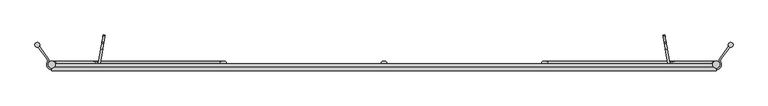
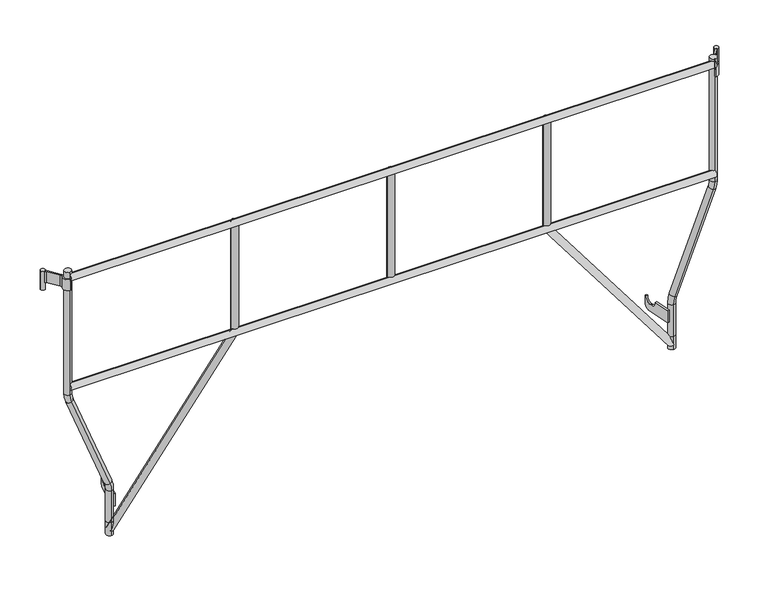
"""IFC4 building model written with IfcOpenShell, lengths in millimetres: proxy geometry, MILLS_TOEC_GARDE_CORPS_MDS : GCMDS300EE."""

from ifc_helpers import new_model, si_unit, point, frame, frame_2d, origin, origin_2d, place, context, project, spatial, polyline, circle_curve, ellipse_curve, trimmed, segment, composite_curve, outline, extrude, source, transform, mapped, element, save
from ifc_brep_helpers import plane_surface, cylinder_surface, revolved_surface, advanced_brep


def specialty_equipment_8377ca54(model_context):
    return source(origin(), model_context, "Body", "SolidModel", [
        extrude(outline(composite_curve([segment(polyline([(1.0, 0.0), (1.0, -56.0), (-71.0236376, -56.0)]), True, "CONTINUOUS"), segment(trimmed(circle_curve(frame_2d((-96.0036296, -55.0)), 25.0), [point((-71.0236376, -56.0))], [point((-96.0036296, -30.0))], True, "CARTESIAN"), True, "CONTINUOUS"), segment(polyline([(-96.0036296, -30.0), (-101.0, -30.0)]), True, "CONTINUOUS"), segment(trimmed(circle_curve(frame_2d((-101.0, -55.0)), 25.0), [point((-101.0, -30.0))], [point((-125.979992, -56.0))], True, "CARTESIAN"), True, "CONTINUOUS"), segment(polyline([(-125.979992, -56.0), (-131.0, -56.0), (-131.0, -25.0)]), True, "CONTINUOUS"), segment(trimmed(circle_curve(frame_2d((-106.0, -25.0)), 25.0), [point((-131.0, -25.0))], [point((-106.0, 0.0))], False, "CARTESIAN"), True, "CONTINUOUS"), segment(polyline([(-106.0, 0.0), (1.0, 0.0)]), True, "CONTINUOUS")], self_intersect=False)), frame((-512.2782405, -100.0151851, -1045.0342697), z_axis=(0.9848149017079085, 0.1736076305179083, 0.0), x_axis=(0.1736076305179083, -0.9848149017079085, 0.0)), (0.0, 0.0, 1.0), 8.0),
        extrude(outline(composite_curve([segment(polyline([(55.0, 0.0), (55.0, -107.0)]), True, "CONTINUOUS"), segment(trimmed(circle_curve(frame_2d((30.0, -107.0)), 25.0), [point((55.0, -107.0))], [point((30.0, -132.0))], False, "CARTESIAN"), True, "CONTINUOUS"), segment(polyline([(30.0, -132.0), (-1.0, -132.0), (-1.0, -126.979992)]), True, "CONTINUOUS"), segment(trimmed(circle_curve(frame_2d((0.0, -102.0)), 25.0), [point((-1.0, -126.979992))], [point((25.0, -102.0))], True, "CARTESIAN"), True, "CONTINUOUS"), segment(polyline([(25.0, -102.0), (25.0, -97.0036297)]), True, "CONTINUOUS"), segment(trimmed(circle_curve(frame_2d((0.0, -97.0036297)), 25.0), [point((25.0, -97.0036297))], [point((-1.0, -72.0236376))], True, "CARTESIAN"), True, "CONTINUOUS"), segment(polyline([(-1.0, -72.0236376), (-1.0, 0.0), (55.0, 0.0)]), True, "CONTINUOUS")], self_intersect=False)), frame((-2897.9370473, -101.0, -990.0342697), z_axis=(-0.9848149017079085, 0.17360763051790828, 0.0), x_axis=(0.0, 0.0, -1.0)), (0.0, 0.0, 1.0), 8.0),
        extrude(outline(composite_curve([segment(trimmed(circle_curve(frame_2d((-1031.0208401, -94.0)), 15.0), [point((-1016.0208401, -94.0))], [point((-1046.0208401, -94.0))], False, "CARTESIAN"), True, "CONTINUOUS"), segment(trimmed(circle_curve(frame_2d((-1031.0208401, -94.0)), 15.0), [point((-1046.0208401, -94.0))], [point((-1016.0208401, -94.0))], False, "CARTESIAN"), True, "CONTINUOUS")], self_intersect=False)), frame((0.0, 0.0, -428.0342697), z_axis=(0.0, 0.0, 1.0), x_axis=(1.0, 0.0, 0.0)), (0.0, 0.0, 1.0), 500.0),
        extrude(outline(composite_curve([segment(trimmed(circle_curve(origin_2d(), 15.0), [point((0.0, 15.0))], [point((0.0, -15.0))], False, "CARTESIAN"), True, "CONTINUOUS"), segment(trimmed(circle_curve(origin_2d(), 15.0), [point((0.0, -15.0))], [point((0.0, 15.0))], False, "CARTESIAN"), True, "CONTINUOUS")], self_intersect=False)), frame((-490.8598532, -94.0, -1148.6632029), z_axis=(-0.60180110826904, 0.0, 0.7986459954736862), x_axis=(0.0, -1.0, 0.0)), (0.0, 0.0, 1.0), 902.3133369),
        extrude(outline(composite_curve([segment(trimmed(circle_curve(origin_2d(), 15.0), [point((0.0, 15.0))], [point((0.0, -15.0))], False, "CARTESIAN"), True, "CONTINUOUS"), segment(trimmed(circle_curve(origin_2d(), 15.0), [point((0.0, -15.0))], [point((0.0, 15.0))], False, "CARTESIAN"), True, "CONTINUOUS")], self_intersect=False)), frame((-2919.1818269, -94.0, -1148.6632029), z_axis=(0.6018011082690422, 0.0, 0.7986459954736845), x_axis=(0.0, -1.0, 0.0)), (0.0, 0.0, 1.0), 902.3133369),
        extrude(outline(composite_curve([segment(trimmed(circle_curve(frame_2d((-105.1, -428.0342697)), 15.0), [point((-105.1, -443.0342697))], [point((-105.1, -413.0342697))], False, "CARTESIAN"), True, "CONTINUOUS"), segment(trimmed(circle_curve(frame_2d((-105.1, -428.0342697)), 15.0), [point((-105.1, -413.0342697))], [point((-105.1, -443.0342697))], False, "CARTESIAN"), True, "CONTINUOUS")], self_intersect=False)), frame((-3099.0208401, 0.0, 0.0), z_axis=(1.0, 0.0, 0.0), x_axis=(0.0, 1.0, 0.0)), (0.0, 0.0, 1.0), 2788.0),
        extrude(outline(composite_curve([segment(trimmed(circle_curve(frame_2d((-1705.0208401, -94.0)), 15.0), [point((-1690.0208401, -94.0))], [point((-1720.0208401, -94.0))], False, "CARTESIAN"), True, "CONTINUOUS"), segment(trimmed(circle_curve(frame_2d((-1705.0208401, -94.0)), 15.0), [point((-1720.0208401, -94.0))], [point((-1690.0208401, -94.0))], False, "CARTESIAN"), True, "CONTINUOUS")], self_intersect=False)), frame((0.0, 0.0, -428.0342697), z_axis=(0.0, 0.0, 1.0), x_axis=(1.0, 0.0, 0.0)), (0.0, 0.0, 1.0), 500.0),
        advanced_brep(
        [(-311.0208401, -109.0, 96.9657303), (-311.0208401, -79.0, 96.9657303), (-311.0208401, -109.0, -463.0342697), (-311.0208401, -79.0, -463.0342697), (-317.4400177, -79.0, -497.3626533), (-317.4400177, -109.0, -497.3626533), (-484.6016624, -109.0, -928.7058862), (-484.6016624, -79.0, -928.7058862), (-491.0208401, -79.0, -963.0342697), (-491.0208401, -109.0, -963.0342697), (-491.0208401, -109.0, -1168.0342697), (-491.0208401, -79.0, -1168.0342697), (-491.0208401, -109.0, -1108.0342697), (-491.0208401, -79.0, -1108.0342697)],
        [
            (0, 1, circle_curve(frame((-311.0208401, -94.0, 96.9657303), z_axis=(0.0, 0.0, 1.0), x_axis=(0.0, 1.0, 0.0)), 15.0)),
            (1, 0, circle_curve(frame((-311.0208401, -94.0, 96.9657303), z_axis=(0.0, 0.0, 1.0), x_axis=(0.0, 1.0, 0.0)), 15.0)),
            (0, 2),
            (2, 3, circle_curve(frame((-311.0208401, -94.0, -463.0342697), z_axis=(0.0, 0.0, 1.0), x_axis=(0.0, 1.0, 0.0)), 15.0)),
            (3, 1),
            (3, 2, circle_curve(frame((-311.0208401, -94.0, -463.0342697), z_axis=(0.0, 0.0, 1.0), x_axis=(0.0, 1.0, 0.0)), 15.0)),
            (4, 3, circle_curve(frame((-406.0208401, -79.0, -463.0342697), z_axis=(0.0, -1.0, 0.0), x_axis=(1.0, 0.0, 0.0)), 95.0)),
            (2, 5, circle_curve(frame((-406.0208401, -109.0, -463.0342697), z_axis=(0.0, 1.0, 0.0), x_axis=(1.0, 0.0, 0.0)), 95.0)),
            (5, 4, circle_curve(frame((-317.4400177, -94.0, -497.3626533), z_axis=(0.36135140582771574, 0.0, 0.9324297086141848), x_axis=(0.0, 1.0, 0.0)), 15.0)),
            (4, 5, circle_curve(frame((-317.4400177, -94.0, -497.3626533), z_axis=(0.36135140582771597, 0.0, 0.9324297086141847), x_axis=(0.0, 1.0, 0.0)), 15.0)),
            (5, 6),
            (6, 7, circle_curve(frame((-484.6016624, -94.0, -928.7058862), z_axis=(0.36135140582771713, 0.0, 0.9324297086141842), x_axis=(0.0, 1.0, 0.0)), 15.0)),
            (7, 4),
            (7, 6, circle_curve(frame((-484.6016624, -94.0, -928.7058862), z_axis=(0.36135140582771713, 0.0, 0.9324297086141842), x_axis=(0.0, 1.0, 0.0)), 15.0)),
            (8, 7, circle_curve(frame((-396.0208401, -79.0, -963.0342697), z_axis=(0.0, 1.0, 0.0), x_axis=(-0.9324297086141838, 0.0, 0.36135140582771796)), 95.0)),
            (6, 9, circle_curve(frame((-396.0208401, -109.0, -963.0342697), z_axis=(0.0, -1.0, 0.0), x_axis=(-0.9324297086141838, 0.0, 0.36135140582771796)), 95.0)),
            (9, 8, circle_curve(frame((-491.0208401, -94.0, -963.0342697), z_axis=(0.0, 0.0, 0.9999999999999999), x_axis=(0.0, 1.0, 0.0)), 15.0)),
            (8, 9, circle_curve(frame((-491.0208401, -94.0, -963.0342697), z_axis=(0.0, 0.0, 0.9999999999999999), x_axis=(0.0, 1.0, 0.0)), 15.0)),
            (10, 11, circle_curve(frame((-491.0208401, -94.0, -1168.0342697), z_axis=(0.0, 0.0, -1.0), x_axis=(0.0, 1.0, 0.0)), 15.0)),
            (11, 10, circle_curve(frame((-491.0208401, -94.0, -1168.0342697), z_axis=(0.0, 0.0, -1.0), x_axis=(0.0, 1.0, 0.0)), 15.0)),
            (9, 12),
            (12, 13, circle_curve(frame((-491.0208401, -94.0, -1108.0342697), z_axis=(0.0, 0.0, 1.0), x_axis=(0.0, 1.0, 0.0)), 15.0)),
            (13, 8),
            (13, 12, circle_curve(frame((-491.0208401, -94.0, -1108.0342697), z_axis=(0.0, 0.0, 1.0), x_axis=(0.0, 1.0, 0.0)), 15.0)),
            (12, 10),
            (11, 13),
        ],
        [
            plane_surface(frame((-311.0208401, -94.0, 96.9657303), z_axis=(0.0, 0.0, 1.0), x_axis=(0.0, 1.0, 0.0))),
            cylinder_surface(frame((-311.0208401, -94.0, 96.9657303), z_axis=(0.0, 0.0, 1.0), x_axis=(0.0, 1.0, 0.0)), 15.0),
            revolved_surface(trimmed(ellipse_curve(frame((-311.0208401, -94.0, -463.0342697), z_axis=(0.0, 0.0, 1.0), x_axis=(0.0, 1.0, 0.0)), 15.0, 15.0), [point((-311.0208401, -109.0, -463.0342697))], [point((-311.0208401, -79.0, -463.0342697))], True, "CARTESIAN"), (-406.0208401, -94.0, -463.0342697), (0.0, 1.0, 0.0)),
            revolved_surface(trimmed(ellipse_curve(frame((-311.0208401, -94.0, -463.0342697), z_axis=(0.0, 0.0, 1.0), x_axis=(0.0, 1.0, 0.0)), 15.0, 15.0), [point((-311.0208401, -79.0, -463.0342697))], [point((-311.0208401, -109.0, -463.0342697))], True, "CARTESIAN"), (-406.0208401, -94.0, -463.0342697), (0.0, 1.0, 0.0)),
            cylinder_surface(frame((-317.4400177, -94.0, -497.3626533), z_axis=(0.36135140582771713, 0.0, 0.9324297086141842), x_axis=(0.0, 1.0, 0.0)), 15.0),
            revolved_surface(trimmed(ellipse_curve(frame((-484.6016624, -94.0, -928.7058862), z_axis=(0.361351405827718, 0.0, 0.9324297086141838), x_axis=(0.0, 1.0, 0.0)), 15.0, 15.0), [point((-484.6016624, -109.0, -928.7058862))], [point((-484.6016624, -79.0, -928.7058862))], True, "CARTESIAN"), (-396.0208401, -94.0, -963.0342697), (0.0, -1.0, 0.0)),
            revolved_surface(trimmed(ellipse_curve(frame((-484.6016624, -94.0, -928.7058862), z_axis=(0.361351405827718, 0.0, 0.9324297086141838), x_axis=(0.0, 1.0, 0.0)), 15.0, 15.0), [point((-484.6016624, -79.0, -928.7058862))], [point((-484.6016624, -109.0, -928.7058862))], True, "CARTESIAN"), (-396.0208401, -94.0, -963.0342697), (0.0, -1.0, 0.0)),
            plane_surface(frame((-491.0208401, -94.0, -1168.0342697), z_axis=(0.0, 0.0, -1.0), x_axis=(0.0, 1.0, 0.0))),
            cylinder_surface(frame((-491.0208401, -94.0, -963.0342697), z_axis=(0.0, 0.0, 1.0), x_axis=(0.0, 1.0, 0.0)), 15.0),
            cylinder_surface(frame((-491.0208401, -94.0, -1108.0342697), z_axis=(0.0, 0.0, 1.0), x_axis=(0.0, 1.0, 0.0)), 15.0),
        ],
        [
            (0, [[1, 2]]),
            (1, [[-1, 3, 4, 5]]),
            (1, [[-2, -5, 6, -3]]),
            (2, [[7, -4, 8, 9]]),
            (3, [[-8, -6, -7, 10]]),
            (4, [[-9, 11, 12, 13]]),
            (4, [[-10, -13, 14, -11]]),
            (5, [[15, -12, 16, 17]]),
            (6, [[-16, -14, -15, 18]]),
            (7, [[19, 20]]),
            (8, [[-17, 21, 22, 23]]),
            (8, [[-18, -23, 24, -21]]),
            (9, [[-22, 25, -20, 26]]),
            (9, [[-24, -26, -19, -25]]),
        ],
    ),
        advanced_brep(
        [(-3099.0208401, -79.0, 96.9657303), (-3099.0208401, -109.0, 96.9657303), (-3099.0208401, -79.0, -463.0342697), (-3099.0208401, -109.0, -463.0342697), (-3092.6016624, -109.0, -497.3626533), (-3092.6016624, -79.0, -497.3626533), (-2925.4400177, -79.0, -928.7058862), (-2925.4400177, -109.0, -928.7058862), (-2919.0208401, -109.0, -963.0342697), (-2919.0208401, -79.0, -963.0342697), (-2919.0208401, -79.0, -1168.0342697), (-2919.0208401, -109.0, -1168.0342697), (-2919.0208401, -79.0, -1108.0342697), (-2919.0208401, -109.0, -1108.0342697)],
        [
            (0, 1, circle_curve(frame((-3099.0208401, -94.0, 96.9657303), z_axis=(0.0, 0.0, 1.0), x_axis=(0.0, -1.0, 0.0)), 15.0)),
            (1, 0, circle_curve(frame((-3099.0208401, -94.0, 96.9657303), z_axis=(0.0, 0.0, 1.0), x_axis=(0.0, -1.0, 0.0)), 15.0)),
            (0, 2),
            (2, 3, circle_curve(frame((-3099.0208401, -94.0, -463.0342697), z_axis=(0.0, 0.0, 1.0), x_axis=(0.0, -1.0, 0.0)), 15.0)),
            (3, 1),
            (3, 2, circle_curve(frame((-3099.0208401, -94.0, -463.0342697), z_axis=(0.0, 0.0, 1.0), x_axis=(0.0, -1.0, 0.0)), 15.0)),
            (4, 3, circle_curve(frame((-3004.0208401, -109.0, -463.0342697), z_axis=(0.0, 1.0, 0.0), x_axis=(-1.0, 0.0, 0.0)), 95.0)),
            (2, 5, circle_curve(frame((-3004.0208401, -79.0, -463.0342697), z_axis=(0.0, -1.0, 0.0), x_axis=(-1.0, 0.0, 0.0)), 95.0)),
            (5, 4, circle_curve(frame((-3092.6016624, -94.0, -497.3626533), z_axis=(-0.36135140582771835, 0.0, 0.9324297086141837), x_axis=(0.0, -1.0, 0.0)), 15.0)),
            (4, 5, circle_curve(frame((-3092.6016624, -94.0, -497.3626533), z_axis=(-0.36135140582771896, 0.0, 0.9324297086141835), x_axis=(0.0, -1.0, 0.0)), 15.0)),
            (5, 6),
            (6, 7, circle_curve(frame((-2925.4400177, -94.0, -928.7058862), z_axis=(-0.36135140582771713, 0.0, 0.9324297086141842), x_axis=(0.0, -1.0, 0.0)), 15.0)),
            (7, 4),
            (7, 6, circle_curve(frame((-2925.4400177, -94.0, -928.7058862), z_axis=(-0.36135140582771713, 0.0, 0.9324297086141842), x_axis=(0.0, -1.0, 0.0)), 15.0)),
            (8, 7, circle_curve(frame((-3014.0208401, -109.0, -963.0342697), z_axis=(0.0, -1.0, 0.0), x_axis=(0.9324297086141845, 0.0, 0.36135140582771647)), 95.0)),
            (6, 9, circle_curve(frame((-3014.0208401, -79.0, -963.0342697), z_axis=(0.0, 1.0, 0.0), x_axis=(0.9324297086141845, 0.0, 0.36135140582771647)), 95.0)),
            (9, 8, circle_curve(frame((-2919.0208401, -94.0, -963.0342697), z_axis=(0.0, 0.0, 1.0), x_axis=(0.0, -1.0, 0.0)), 15.0)),
            (8, 9, circle_curve(frame((-2919.0208401, -94.0, -963.0342697), z_axis=(0.0, 0.0, 1.0), x_axis=(0.0, -1.0, 0.0)), 15.0)),
            (10, 11, circle_curve(frame((-2919.0208401, -94.0, -1168.0342697), z_axis=(0.0, 0.0, -1.0), x_axis=(0.0, -1.0, 0.0)), 15.0)),
            (11, 10, circle_curve(frame((-2919.0208401, -94.0, -1168.0342697), z_axis=(0.0, 0.0, -1.0), x_axis=(0.0, -1.0, 0.0)), 15.0)),
            (9, 12),
            (12, 13, circle_curve(frame((-2919.0208401, -94.0, -1108.0342697), z_axis=(0.0, 0.0, 1.0), x_axis=(0.0, -1.0, 0.0)), 15.0)),
            (13, 8),
            (13, 12, circle_curve(frame((-2919.0208401, -94.0, -1108.0342697), z_axis=(0.0, 0.0, 1.0), x_axis=(0.0, -1.0, 0.0)), 15.0)),
            (12, 10),
            (11, 13),
        ],
        [
            plane_surface(frame((-3099.0208401, -94.0, 96.9657303), z_axis=(0.0, 0.0, 1.0), x_axis=(0.0, -1.0, 0.0))),
            cylinder_surface(frame((-3099.0208401, -94.0, 96.9657303), z_axis=(0.0, 0.0, 1.0), x_axis=(0.0, -1.0, 0.0)), 15.0),
            revolved_surface(trimmed(ellipse_curve(frame((-3099.0208401, -94.0, -463.0342697), z_axis=(0.0, 0.0, 1.0), x_axis=(0.0, -1.0, 0.0)), 15.0, 15.0), [point((-3099.0208401, -79.0, -463.0342697))], [point((-3099.0208401, -109.0, -463.0342697))], True, "CARTESIAN"), (-3004.0208401, -94.0, -463.0342697), (0.0, -1.0, 0.0)),
            revolved_surface(trimmed(ellipse_curve(frame((-3099.0208401, -94.0, -463.0342697), z_axis=(0.0, 0.0, 1.0), x_axis=(0.0, -1.0, 0.0)), 15.0, 15.0), [point((-3099.0208401, -109.0, -463.0342697))], [point((-3099.0208401, -79.0, -463.0342697))], True, "CARTESIAN"), (-3004.0208401, -94.0, -463.0342697), (0.0, -1.0, 0.0)),
            cylinder_surface(frame((-3092.6016624, -94.0, -497.3626533), z_axis=(-0.36135140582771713, 0.0, 0.9324297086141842), x_axis=(0.0, -1.0, 0.0)), 15.0),
            revolved_surface(trimmed(ellipse_curve(frame((-2925.4400177, -94.0, -928.7058862), z_axis=(-0.36135140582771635, 0.0, 0.9324297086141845), x_axis=(0.0, -1.0, 0.0)), 15.0, 15.0), [point((-2925.4400177, -79.0, -928.7058862))], [point((-2925.4400177, -109.0, -928.7058862))], True, "CARTESIAN"), (-3014.0208401, -94.0, -963.0342697), (0.0, 1.0, 0.0)),
            revolved_surface(trimmed(ellipse_curve(frame((-2925.4400177, -94.0, -928.7058862), z_axis=(-0.36135140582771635, 0.0, 0.9324297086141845), x_axis=(0.0, -1.0, 0.0)), 15.0, 15.0), [point((-2925.4400177, -109.0, -928.7058862))], [point((-2925.4400177, -79.0, -928.7058862))], True, "CARTESIAN"), (-3014.0208401, -94.0, -963.0342697), (0.0, 1.0, 0.0)),
            plane_surface(frame((-2919.0208401, -94.0, -1168.0342697), z_axis=(0.0, 0.0, -1.0), x_axis=(0.0, -1.0, 0.0))),
            cylinder_surface(frame((-2919.0208401, -94.0, -963.0342697), z_axis=(0.0, 0.0, 1.0), x_axis=(0.0, -1.0, 0.0)), 15.0),
            cylinder_surface(frame((-2919.0208401, -94.0, -1108.0342697), z_axis=(0.0, 0.0, 1.0), x_axis=(0.0, -1.0, 0.0)), 15.0),
        ],
        [
            (0, [[1, 2]]),
            (1, [[-1, 3, 4, 5]]),
            (1, [[-2, -5, 6, -3]]),
            (2, [[7, -4, 8, 9]]),
            (3, [[-8, -6, -7, 10]]),
            (4, [[-9, 11, 12, 13]]),
            (4, [[-10, -13, 14, -11]]),
            (5, [[15, -12, 16, 17]]),
            (6, [[-16, -14, -15, 18]]),
            (7, [[19, 20]]),
            (8, [[-17, 21, 22, 23]]),
            (8, [[-18, -23, 24, -21]]),
            (9, [[-22, 25, -20, 26]]),
            (9, [[-24, -26, -19, -25]]),
        ],
    ),
        extrude(outline(composite_curve([segment(trimmed(circle_curve(frame_2d((-2379.0208401, -94.0)), 15.0), [point((-2364.0208401, -94.0))], [point((-2394.0208401, -94.0))], False, "CARTESIAN"), True, "CONTINUOUS"), segment(trimmed(circle_curve(frame_2d((-2379.0208401, -94.0)), 15.0), [point((-2394.0208401, -94.0))], [point((-2364.0208401, -94.0))], False, "CARTESIAN"), True, "CONTINUOUS")], self_intersect=False)), frame((0.0, 0.0, -428.0342697), z_axis=(0.0, 0.0, 1.0), x_axis=(1.0, 0.0, 0.0)), (0.0, 0.0, 1.0), 500.0),
        extrude(outline(composite_curve([segment(trimmed(circle_curve(frame_2d((-3159.2688284, -11.0757581)), 10.0), [point((-3169.2688284, -11.0757581))], [point((-3149.2688284, -11.0757581))], False, "CARTESIAN"), True, "CONTINUOUS"), segment(trimmed(circle_curve(frame_2d((-3159.2688284, -11.0757581)), 10.0), [point((-3149.2688284, -11.0757581))], [point((-3169.2688284, -11.0757581))], False, "CARTESIAN"), True, "CONTINUOUS")], self_intersect=False)), frame((0.0, 0.0, -16.0342697), z_axis=(0.0, 0.0, 1.0), x_axis=(1.0, 0.0, 0.0)), (0.0, 0.0, 1.0), 85.0),
        extrude(outline(composite_curve([segment(trimmed(circle_curve(frame_2d((-3160.852487, -31.0129601)), 10.0), [point((-3152.762317, -25.1351076))], [point((-3160.0606577, -21.0443591))], True, "CARTESIAN"), True, "CONTINUOUS"), segment(trimmed(circle_curve(frame_2d((-3159.2688284, -11.0757581)), 10.0), [point((-3160.0606577, -21.0443591))], [point((-3149.5434368, -13.4031508))], True, "CARTESIAN"), True, "CONTINUOUS"), segment(trimmed(circle_curve(frame_2d((-3139.8180451, -15.7305436)), 10.0), [point((-3149.5434368, -13.4031508))], [point((-3147.908215, -21.6083961))], True, "CARTESIAN"), True, "CONTINUOUS"), segment(polyline([(-3147.908215, -21.6083961), (-3113.5073033, -68.957189)]), True, "CONTINUOUS"), segment(trimmed(circle_curve(frame_2d((-3127.2605922, -78.9495383)), 17.0), [point((-3113.5073033, -68.957189))], [point((-3112.2582239, -86.9450961))], False, "CARTESIAN"), True, "CONTINUOUS"), segment(trimmed(circle_curve(frame_2d((-3099.0208401, -94.0)), 15.0), [point((-3112.2582239, -86.9450961))], [point((-3099.0208401, -109.0))], True, "CARTESIAN"), True, "CONTINUOUS"), segment(trimmed(circle_curve(frame_2d((-3099.0208401, -112.1303467)), 3.1303467), [point((-3099.0208401, -109.0))], [point((-3099.0208401, -115.2606935))], False, "CARTESIAN"), True, "CONTINUOUS"), segment(trimmed(circle_curve(frame_2d((-3098.6210798, -93.9389821)), 21.3254586), [point((-3099.0208401, -115.2606935))], [point((-3117.5531774, -84.1231345))], False, "CARTESIAN"), True, "CONTINUOUS"), segment(trimmed(circle_curve(frame_2d((-3127.4996225, -78.9661366)), 11.2038564), [point((-3117.5531774, -84.1231345))], [point((-3118.3614053, -72.4839005))], True, "CARTESIAN"), True, "CONTINUOUS"), segment(polyline([(-3118.3614053, -72.4839005), (-3152.762317, -25.1351076)]), True, "CONTINUOUS")], self_intersect=False)), frame((0.0, 0.0, 18.9657303), z_axis=(0.0, 0.0, 1.0), x_axis=(1.0, 0.0, 0.0)), (0.0, 0.0, 1.0), 50.0),
        extrude(outline(composite_curve([segment(trimmed(circle_curve(frame_2d((-250.7728517, -11.0757581)), 10.0), [point((-240.7728517, -11.0757581))], [point((-260.7728517, -11.0757581))], False, "CARTESIAN"), True, "CONTINUOUS"), segment(trimmed(circle_curve(frame_2d((-250.7728517, -11.0757581)), 10.0), [point((-260.7728517, -11.0757581))], [point((-240.7728517, -11.0757581))], False, "CARTESIAN"), True, "CONTINUOUS")], self_intersect=False)), frame((0.0, 0.0, -16.0342697), z_axis=(0.0, 0.0, 1.0), x_axis=(1.0, 0.0, 0.0)), (0.0, 0.0, 1.0), 85.0),
        extrude(outline(composite_curve([segment(polyline([(-257.2793631, -25.1351076), (-291.6802748, -72.4839005)]), True, "CONTINUOUS"), segment(trimmed(circle_curve(frame_2d((-282.5420576, -78.9661366)), 11.2038564), [point((-291.6802748, -72.4839005))], [point((-292.4885027, -84.1231345))], True, "CARTESIAN"), True, "CONTINUOUS"), segment(trimmed(circle_curve(frame_2d((-311.4206003, -93.9389821)), 21.3254586), [point((-292.4885027, -84.1231345))], [point((-311.0208401, -115.2606935))], False, "CARTESIAN"), True, "CONTINUOUS"), segment(trimmed(circle_curve(frame_2d((-311.0208401, -112.1303467)), 3.1303467), [point((-311.0208401, -115.2606935))], [point((-311.0208401, -109.0))], False, "CARTESIAN"), True, "CONTINUOUS"), segment(trimmed(circle_curve(frame_2d((-311.0208401, -94.0)), 15.0), [point((-311.0208401, -109.0))], [point((-297.7834562, -86.9450961))], True, "CARTESIAN"), True, "CONTINUOUS"), segment(trimmed(circle_curve(frame_2d((-282.7810879, -78.9495383)), 17.0), [point((-297.7834562, -86.9450961))], [point((-296.5343768, -68.957189))], False, "CARTESIAN"), True, "CONTINUOUS"), segment(polyline([(-296.5343768, -68.957189), (-262.1334651, -21.6083961)]), True, "CONTINUOUS"), segment(trimmed(circle_curve(frame_2d((-270.223635, -15.7305436)), 10.0), [point((-262.1334651, -21.6083961))], [point((-260.4982434, -13.4031508))], True, "CARTESIAN"), True, "CONTINUOUS"), segment(trimmed(circle_curve(frame_2d((-250.7728517, -11.0757581)), 10.0), [point((-260.4982434, -13.4031508))], [point((-249.9810224, -21.0443591))], True, "CARTESIAN"), True, "CONTINUOUS"), segment(trimmed(circle_curve(frame_2d((-249.1891932, -31.0129601)), 10.0), [point((-249.9810224, -21.0443591))], [point((-257.2793631, -25.1351076))], True, "CARTESIAN"), True, "CONTINUOUS")], self_intersect=False)), frame((0.0, 0.0, 18.9657303), z_axis=(0.0, 0.0, 1.0), x_axis=(1.0, 0.0, 0.0)), (0.0, 0.0, 1.0), 50.0),
        extrude(outline(composite_curve([segment(trimmed(circle_curve(frame_2d((-105.1, 71.9657303)), 15.0), [point((-105.1, 56.9657303))], [point((-105.1, 86.9657303))], False, "CARTESIAN"), True, "CONTINUOUS"), segment(trimmed(circle_curve(frame_2d((-105.1, 71.9657303)), 15.0), [point((-105.1, 86.9657303))], [point((-105.1, 56.9657303))], False, "CARTESIAN"), True, "CONTINUOUS")], self_intersect=False)), frame((-3099.0208401, 0.0, 0.0), z_axis=(1.0, 0.0, 0.0), x_axis=(0.0, 1.0, 0.0)), (0.0, 0.0, 1.0), 2788.0),
    ])


if __name__ == "__main__":
    model = new_model("IFC4")
    model_context = context("Model", 3, world=origin())
    ifc_project = project(units=[si_unit("LENGTHUNIT", "METRE", prefix="MILLI")], contexts=[model_context])
    site = spatial("IfcSite", under=ifc_project)
    building = spatial("IfcBuilding", under=site)
    placement = place(None, origin())
    specialty_equipment_shape = specialty_equipment_8377ca54(model_context)
    element("IfcBuildingElementProxy", 1, Name="MILLS_TOEC_GARDE_CORPS_MDS : GCMDS300EE", ObjectType="MILLS_TOEC_GARDE_CORPS_MDS : GCMDS300EE", at=placement, inside=building, context=model_context, shape_type="MappedRepresentation", body=[
        mapped(specialty_equipment_shape, transform((0.0, 0.0, 0.0), x_axis=(1.0, 0.0, 0.0), y_axis=(0.0, 1.0, 0.0), z_axis=(0.0, 0.0, 1.0))),
    ])
    save(model, "model.ifc")
